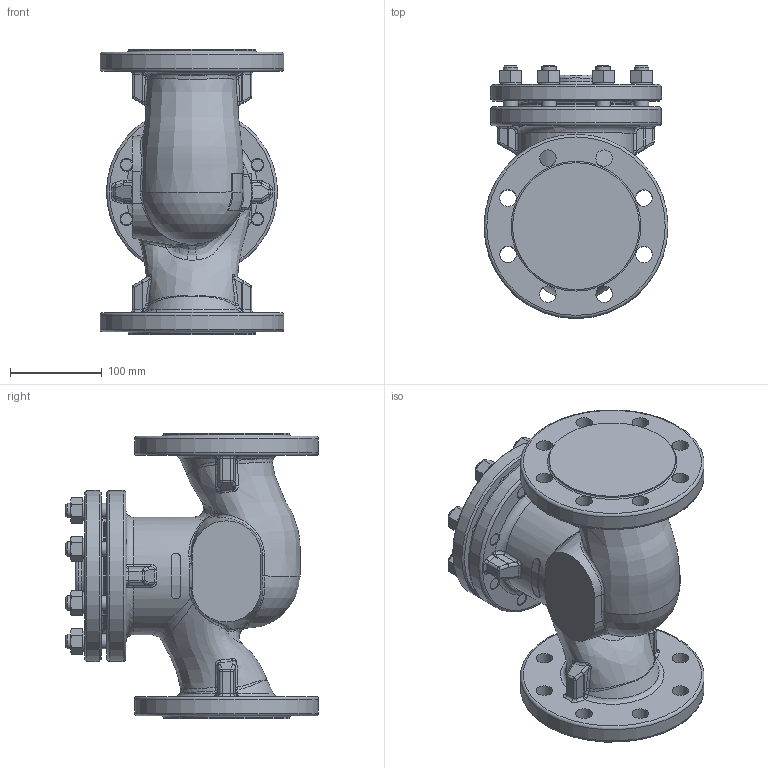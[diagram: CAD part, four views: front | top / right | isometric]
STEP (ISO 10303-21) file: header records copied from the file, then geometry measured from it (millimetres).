
FILE_DESCRIPTION(/* description */ (''),/* implementation_level */ '2;1');
FILE_NAME(/* name */ 'sestZV226_DN80.stp',/* time_stamp */ '2012-03-06T06:18:00+01:00',/* author */ (''),/* organization */ ('LDM'),/* preprocessor_version */ 'ST-DEVELOPER v11',/* originating_system */ 'SIEMENS PLM Software NX 7.0',/* authorisation */ '');
FILE_SCHEMA (('CONFIG_CONTROL_DESIGN'));
Length unit declared in the file: millimetre
Products named in the file (1): adam9E31edg4
Bounding box: 200 x 275 x 310 mm (x, y, z)
Volume: 5915656.9 mm3; surface area: 372892.1 mm2
Topology: 1 solids, 1 shells, 648 faces, 1534 edges, 911 vertices
Faces by surface type: plane 168, cylinder 160, cone 136, bspline 104, torus 54, sphere 26
Full cylindrical faces by diameter (mm): 14 x8, 16 x24, 18 x16, 60 x1, 120 x1, 128 x1, 132 x1, 138 x2, 186 x2, 200 x2
Entity records: 36834 total; most frequent: CARTESIAN_POINT 23394, ORIENTED_EDGE 2750, DIRECTION 2673, EDGE_CURVE 1375, AXIS2_PLACEMENT_3D 1200, VERTEX_POINT 847, EDGE_LOOP 830, ADVANCED_FACE 648
